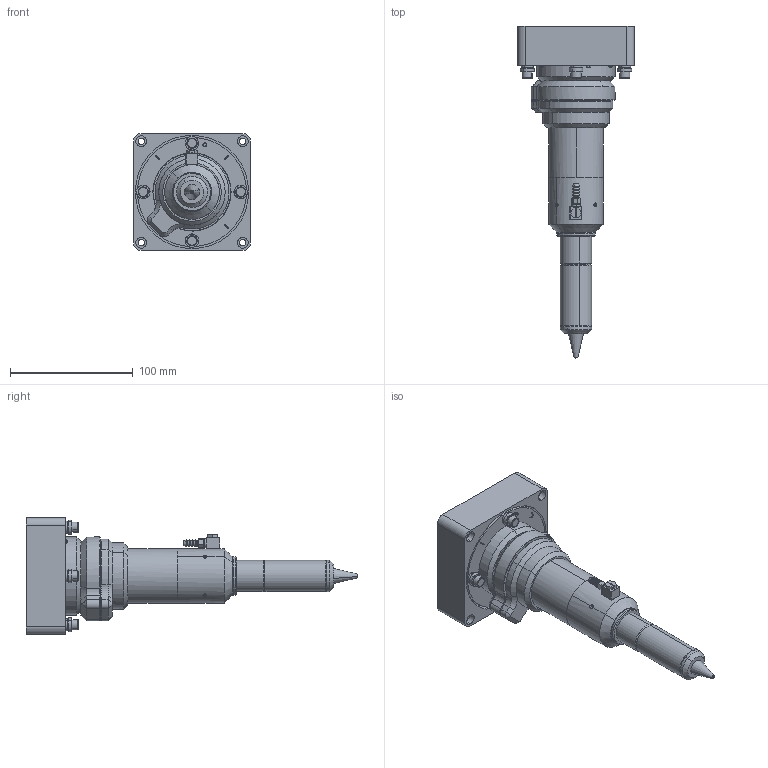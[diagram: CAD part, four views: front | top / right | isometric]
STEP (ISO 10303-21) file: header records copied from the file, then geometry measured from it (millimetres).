
FILE_DESCRIPTION (( 'STEP AP214' ), '1' );
FILE_NAME ('ILH-19-25-127.STEP', '2018-05-15T15:47:54', ( '' ), ( '' ), 'SwSTEP 2.0', 'SolidWorks 2018', '' );
FILE_SCHEMA (( 'AUTOMOTIVE_DESIGN' ));
Length unit declared in the file: inch
Products named in the file (1): ILH-19-25-127
Bounding box: 95.25 x 270.03 x 95.25 mm (x, y, z)
Volume: 596922.7 mm3; surface area: 76244 mm2
Topology: 1 solids, 1 shells, 447 faces, 994 edges, 575 vertices
Faces by surface type: cylinder 150, plane 113, torus 71, cone 67, bspline 24, sphere 22
Entity records: 21501 total; most frequent: CARTESIAN_POINT 11481, DIRECTION 2278, ORIENTED_EDGE 1936, EDGE_CURVE 968, AXIS2_PLACEMENT_3D 964, VERTEX_POINT 573, CIRCLE 540, EDGE_LOOP 531
